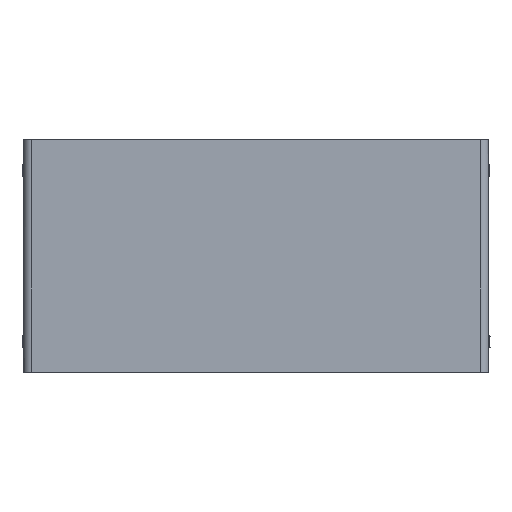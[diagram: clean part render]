
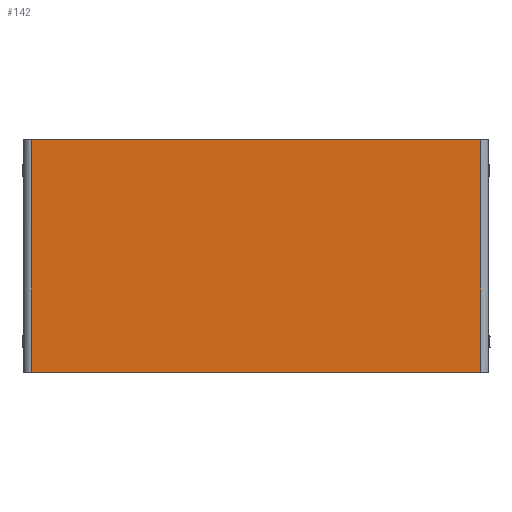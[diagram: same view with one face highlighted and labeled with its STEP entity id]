
A CAD part, top view. The second image highlights one B-rep face of the part: STEP entity #142.
In plain terms, the highlighted planar face has unit normal (0, 0, 1).
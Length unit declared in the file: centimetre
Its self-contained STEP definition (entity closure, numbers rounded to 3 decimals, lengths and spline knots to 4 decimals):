
#142=ADVANCED_FACE($,(#348),#2591,.T.);
#348=FACE_OUTER_BOUND($,#554,.T.);
#554=EDGE_LOOP($,(#1084,#1085,#1086,#1087));
#1084=ORIENTED_EDGE($,*,*,#1865,.T.);
#1085=ORIENTED_EDGE($,*,*,#1866,.T.);
#1086=ORIENTED_EDGE($,*,*,#1867,.T.);
#1087=ORIENTED_EDGE($,*,*,#1863,.F.);
#1863=EDGE_CURVE($,#2284,#2285,#2964,.T.);
#1865=EDGE_CURVE($,#2284,#2286,#2965,.T.);
#1866=EDGE_CURVE($,#2286,#2287,#2966,.T.);
#1867=EDGE_CURVE($,#2287,#2285,#2967,.T.);
#2284=VERTEX_POINT($,#4398);
#2285=VERTEX_POINT($,#4399);
#2286=VERTEX_POINT($,#4400);
#2287=VERTEX_POINT($,#4401);
#2591=PLANE($,#3301);
#2964=B_SPLINE_CURVE_WITH_KNOTS($,1,(#4299,#4300),.UNSPECIFIED.,.F.,.F.,
(2,2),(0.,600.),.UNSPECIFIED.);
#2965=B_SPLINE_CURVE_WITH_KNOTS($,1,(#4304,#4305),.UNSPECIFIED.,.F.,.F.,
(2,2),(0.,1160.),.UNSPECIFIED.);
#2966=B_SPLINE_CURVE_WITH_KNOTS($,1,(#4306,#4307),.UNSPECIFIED.,.F.,.F.,
(2,2),(0.,600.),.UNSPECIFIED.);
#2967=B_SPLINE_CURVE_WITH_KNOTS($,1,(#4308,#4309),.UNSPECIFIED.,.F.,.F.,
(2,2),(-1160.,0.),.UNSPECIFIED.);
#3301=AXIS2_PLACEMENT_3D($,#4365,#3438,$);
#3438=DIRECTION($,(0.,0.,1.));
#4299=CARTESIAN_POINT($,(115.2391,59.1652,31.4));
#4300=CARTESIAN_POINT($,(115.2391,-0.8348,31.4));
#4304=CARTESIAN_POINT($,(115.2391,59.1652,31.4));
#4305=CARTESIAN_POINT($,(-0.7609,59.1652,31.4));
#4306=CARTESIAN_POINT($,(-0.7609,59.1652,31.4));
#4307=CARTESIAN_POINT($,(-0.7609,-0.8348,31.4));
#4308=CARTESIAN_POINT($,(-0.7609,-0.8348,31.4));
#4309=CARTESIAN_POINT($,(115.2391,-0.8348,31.4));
#4365=CARTESIAN_POINT($,(115.2391,59.1652,31.4));
#4398=CARTESIAN_POINT($,(115.2391,59.1652,31.4));
#4399=CARTESIAN_POINT($,(115.2391,-0.8348,31.4));
#4400=CARTESIAN_POINT($,(-0.7609,59.1652,31.4));
#4401=CARTESIAN_POINT($,(-0.7609,-0.8348,31.4));
